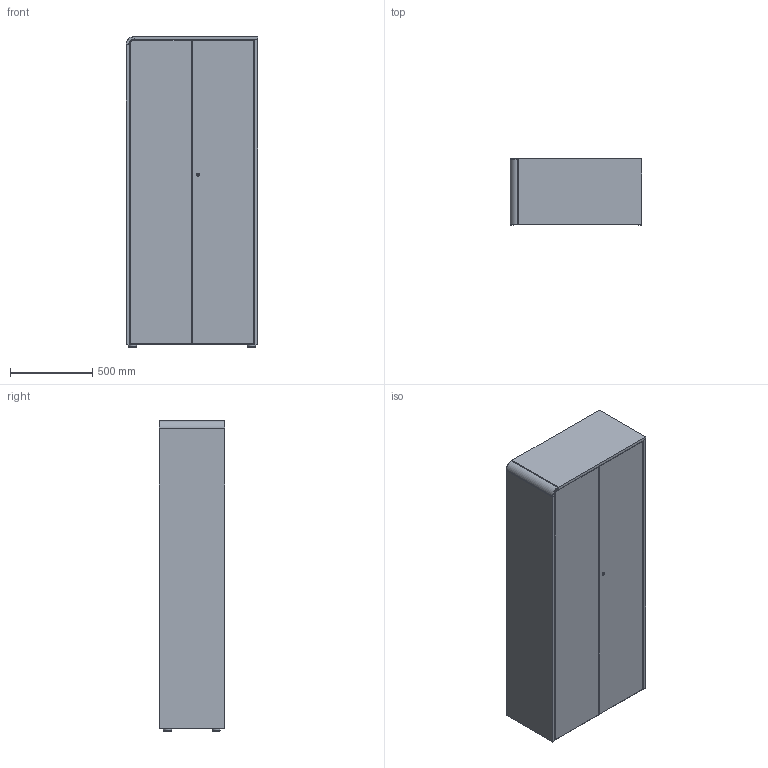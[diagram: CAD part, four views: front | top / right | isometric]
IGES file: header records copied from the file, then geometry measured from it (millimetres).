
Start section: SolidWorks IGES file using analytic representation for surfaces
Global section: file name: C:\Documents and Settings\mbiesiadecki\Moje dokumenty\MEBLE\SYSTEMY BIUROWE\6 VANCOUVER\VANCOUVER - Piktogramy\Vri-pikt-NT\Vr-58bdr-t02L.IGS; native system: SolidWorks 2011; preprocessor: SolidWorks 2011; author: mbiesiadecki; date: 110923.162215; units: millimetre
Bounding box: 800.5 x 400.2 x 1887.5 mm (x, y, z)
Volume: 85187983.4 mm3; surface area: 10005364.5 mm2
Topology: 3 solids, 3 shells, 161 faces, 387 edges, 229 vertices
Faces by surface type: plane 79, revolution 74, bspline 8
